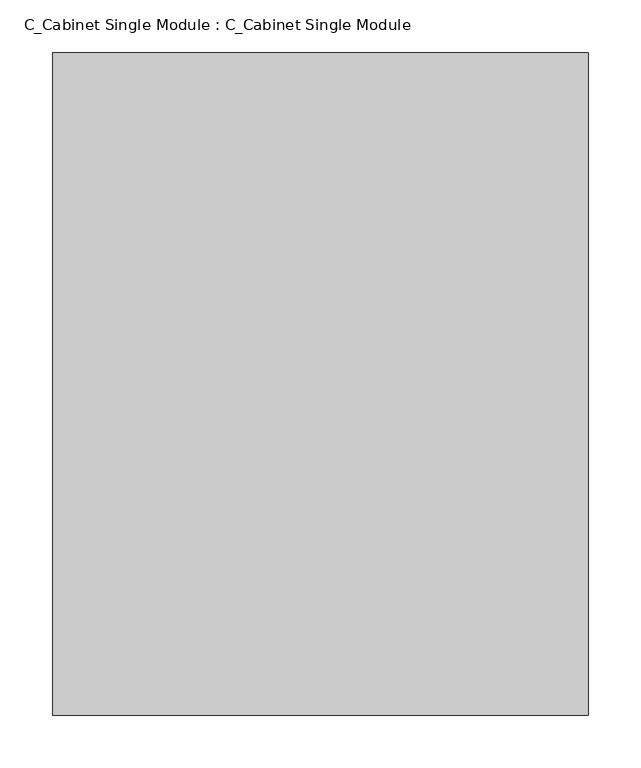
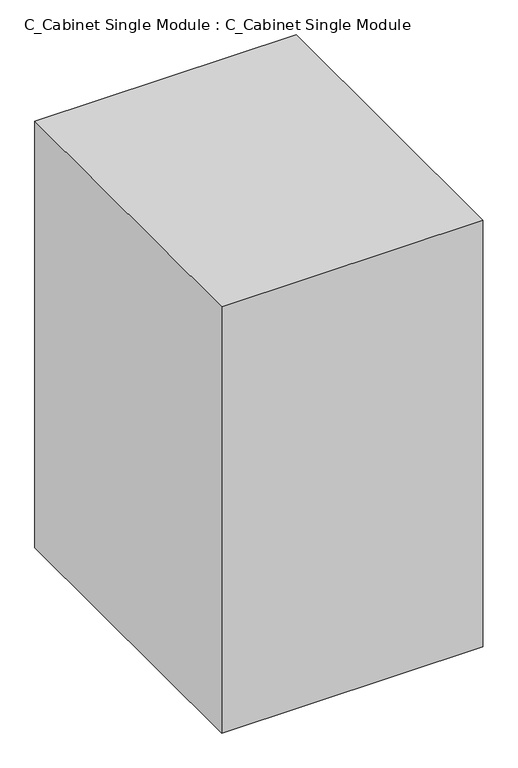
"""IFC4 building model written with IfcOpenShell, lengths in millimetres: furniture geometry, C_Cabinet Single Module : C_Cabinet Single Module."""

from ifc_helpers import new_model, si_unit, origin, origin_with_axes, place, context, project, spatial, polyline, outline, extrude, source, transform, mapped, element, save


def c_cabinet_single_module_c_cabinet_single_module_72188083(model_context):
    return source(origin(), model_context, "Body", "SweptSolid", [
        extrude(outline(polyline([(254.0, 0.0), (254.0, -628.65), (-254.0, -628.65), (-254.0, 0.0), (254.0, 0.0)])), origin_with_axes(), (0.0, 0.0, 1.0), 876.3),
    ])


if __name__ == "__main__":
    model = new_model("IFC4")
    model_context = context("Model", 3, world=origin())
    ifc_project = project(units=[si_unit("LENGTHUNIT", "METRE", prefix="MILLI")], contexts=[model_context])
    site = spatial("IfcSite", under=ifc_project)
    building = spatial("IfcBuilding", under=site)
    placement = place(None, origin())
    c_cabinet_single_module_c_cabinet_single_module_shape = c_cabinet_single_module_c_cabinet_single_module_72188083(model_context)
    element("IfcFurniture", 1, ObjectType="C_Cabinet Single Module : C_Cabinet Single Module", at=placement, inside=building, context=model_context, shape_type="MappedRepresentation", body=[
        mapped(c_cabinet_single_module_c_cabinet_single_module_shape, transform((0.0, 0.0, 0.0), x_axis=(1.0, 0.0, 0.0), y_axis=(0.0, 1.0, 0.0), z_axis=(0.0, 0.0, 1.0))),
    ])
    save(model, "model.ifc")
